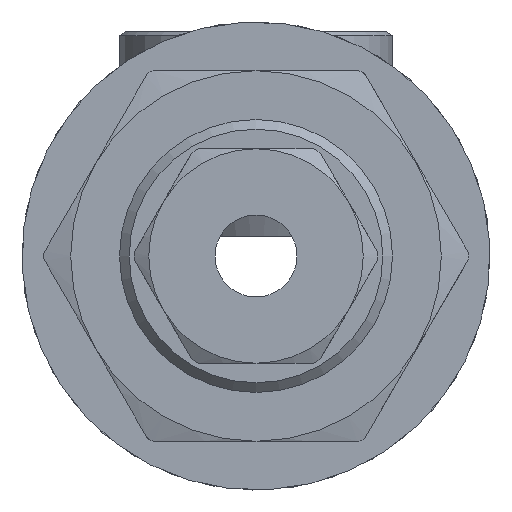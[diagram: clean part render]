
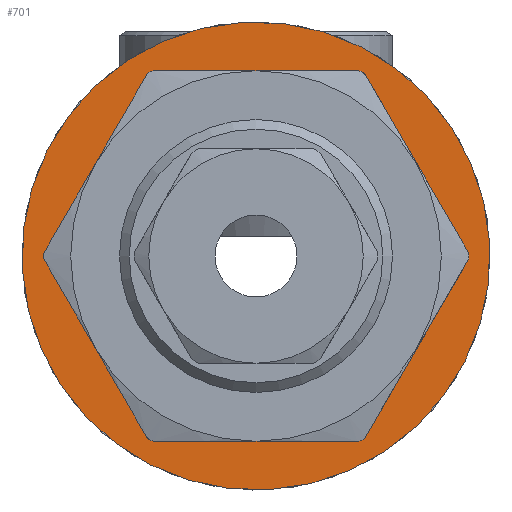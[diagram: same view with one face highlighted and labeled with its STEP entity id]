
A CAD part, front view. The second image highlights one B-rep face of the part: STEP entity #701.
In plain terms, the highlighted planar face has unit normal (0, -1, 0) as drawn and (1, 0, 0) by its records, which use the part's own axes.
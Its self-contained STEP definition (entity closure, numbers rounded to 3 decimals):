
#701=ADVANCED_FACE('',(#1130,#1131),#1132,.F.);
#1130=FACE_BOUND('',#1693,.T.);
#1131=FACE_OUTER_BOUND('',#1694,.T.);
#1132=PLANE('',#1695);
#1693=EDGE_LOOP('',(#3259));
#1694=EDGE_LOOP('',(#3260));
#1695=AXIS2_PLACEMENT_3D('',#3261,#3262,#3263);
#3259=ORIENTED_EDGE('',*,*,#4422,.T.);
#3260=ORIENTED_EDGE('',*,*,#4423,.F.);
#3261=CARTESIAN_POINT('',(0.0,0.0,0.));
#3262=DIRECTION('',(-1.0,0.,0.0));
#3263=DIRECTION('',(0.,-1.0,0.0));
#4422=EDGE_CURVE('',#4867,#4867,#4868,.T.);
#4423=EDGE_CURVE('',#4869,#4869,#4870,.T.);
#4867=VERTEX_POINT('',#5503);
#4868=CIRCLE('',#5504,7.5);
#4869=VERTEX_POINT('',#5505);
#4870=CIRCLE('',#5506,12.0);
#5503=CARTESIAN_POINT('',(0.,-7.5,0.));
#5504=AXIS2_PLACEMENT_3D('',#7085,#7086,#7087);
#5505=CARTESIAN_POINT('',(0.,12.0,0.));
#5506=AXIS2_PLACEMENT_3D('',#7088,#7089,#7090);
#7085=CARTESIAN_POINT('',(0.0,0.,0.));
#7086=DIRECTION('',(-1.0,0.,0.0));
#7087=DIRECTION('',(0.,-1.0,0.0));
#7088=CARTESIAN_POINT('',(0.0,0.0,0.));
#7089=DIRECTION('',(-1.0,0.,0.0));
#7090=DIRECTION('',(0.,1.0,0.0));
